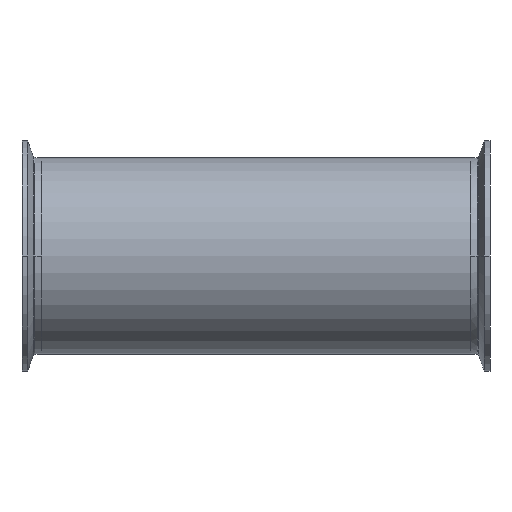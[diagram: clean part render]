
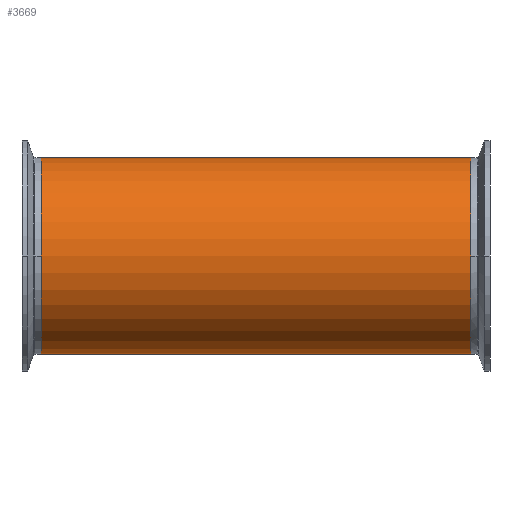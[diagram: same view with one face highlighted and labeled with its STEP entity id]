
A CAD part, front view. The second image highlights one B-rep face of the part: STEP entity #3669.
In plain terms, the highlighted cylindrical face has radius 50.8 mm (diameter 101.6 mm), a partial arc.
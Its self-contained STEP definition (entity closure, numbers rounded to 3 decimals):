
#243 = CARTESIAN_POINT ( 'NONE',  ( 254.384, 0., -50.8 ) ) ;
#468 = CIRCLE ( 'NONE', #1014, 50.8 ) ;
#618 = CARTESIAN_POINT ( 'NONE',  ( -110.7, 0., 0. ) ) ;
#733 = AXIS2_PLACEMENT_3D ( 'NONE', #2214, #4854, #2597 ) ;
#777 = DIRECTION ( 'NONE',  ( -1., 0., 0. ) ) ;
#855 = FACE_OUTER_BOUND ( 'NONE', #4341, .T. ) ;
#1014 = AXIS2_PLACEMENT_3D ( 'NONE', #618, #3376, #1045 ) ;
#1045 = DIRECTION ( 'NONE',  ( 0., 0., 1. ) ) ;
#1294 = VECTOR ( 'NONE', #4127, 1000. ) ;
#1756 = ORIENTED_EDGE ( 'NONE', *, *, #3000, .T. ) ;
#1842 = CARTESIAN_POINT ( 'NONE',  ( 254.384, 0., 0. ) ) ;
#1854 = VECTOR ( 'NONE', #777, 1000. ) ;
#1949 = VERTEX_POINT ( 'NONE', #4247 ) ;
#1957 = CARTESIAN_POINT ( 'NONE',  ( 110.7, 0., -50.8 ) ) ;
#2141 = CARTESIAN_POINT ( 'NONE',  ( 110.7, 0., 50.8 ) ) ;
#2150 = VERTEX_POINT ( 'NONE', #2141 ) ;
#2181 = EDGE_CURVE ( 'NONE', #4394, #2150, #2580, .T. ) ;
#2188 = EDGE_CURVE ( 'NONE', #1949, #4553, #468, .T. ) ;
#2212 = EDGE_CURVE ( 'NONE', #4394, #4553, #2334, .T. ) ;
#2214 = CARTESIAN_POINT ( 'NONE',  ( 110.7, 0., 0. ) ) ;
#2334 = LINE ( 'NONE', #243, #1294 ) ;
#2580 = CIRCLE ( 'NONE', #733, 50.8 ) ;
#2597 = DIRECTION ( 'NONE',  ( 0., 0., 1. ) ) ;
#2703 = ORIENTED_EDGE ( 'NONE', *, *, #2188, .T. ) ;
#3000 = EDGE_CURVE ( 'NONE', #2150, #1949, #3904, .T. ) ;
#3225 = ORIENTED_EDGE ( 'NONE', *, *, #2212, .F. ) ;
#3376 = DIRECTION ( 'NONE',  ( 1., 0., 0. ) ) ;
#3669 = ADVANCED_FACE ( 'NONE', ( #855 ), #3725, .T. ) ;
#3725 = CYLINDRICAL_SURFACE ( 'NONE', #4370, 50.8 ) ;
#3770 = DIRECTION ( 'NONE',  ( -1., 0., 0. ) ) ;
#3904 = LINE ( 'NONE', #4259, #1854 ) ;
#4036 = CARTESIAN_POINT ( 'NONE',  ( -110.7, 0., -50.8 ) ) ;
#4127 = DIRECTION ( 'NONE',  ( -1., 0., 0. ) ) ;
#4133 = DIRECTION ( 'NONE',  ( 0., 0., 1. ) ) ;
#4247 = CARTESIAN_POINT ( 'NONE',  ( -110.7, 0., 50.8 ) ) ;
#4259 = CARTESIAN_POINT ( 'NONE',  ( 254.384, 0., 50.8 ) ) ;
#4341 = EDGE_LOOP ( 'NONE', ( #3225, #4741, #1756, #2703 ) ) ;
#4370 = AXIS2_PLACEMENT_3D ( 'NONE', #1842, #3770, #4133 ) ;
#4394 = VERTEX_POINT ( 'NONE', #1957 ) ;
#4553 = VERTEX_POINT ( 'NONE', #4036 ) ;
#4741 = ORIENTED_EDGE ( 'NONE', *, *, #2181, .T. ) ;
#4854 = DIRECTION ( 'NONE',  ( -1., 0., 0. ) ) ;
